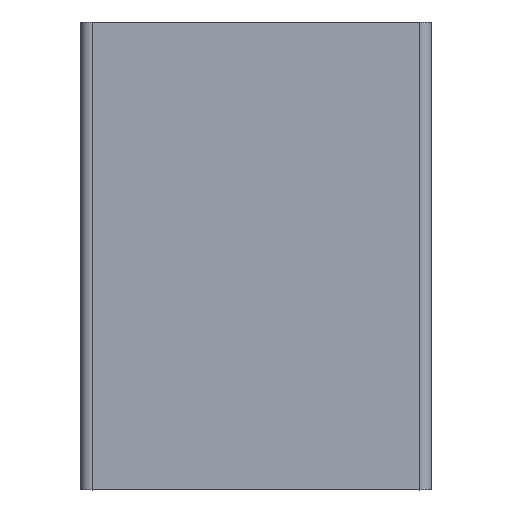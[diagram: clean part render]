
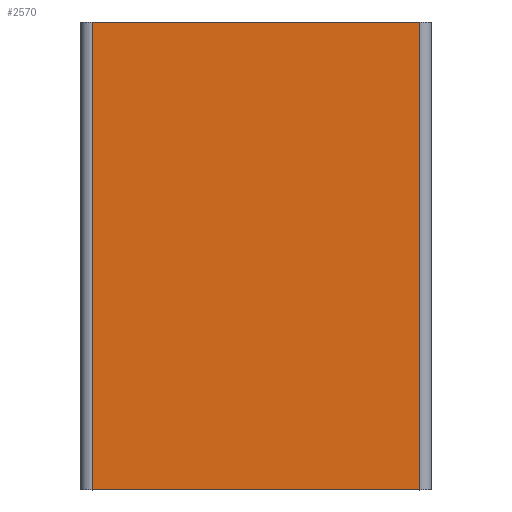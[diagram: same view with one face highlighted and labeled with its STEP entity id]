
A CAD part, top view. The second image highlights one B-rep face of the part: STEP entity #2570.
In plain terms, the highlighted planar face has unit normal (0, 0, 1) as drawn and (0, 1, 0) by its records, which use the part's own axes.
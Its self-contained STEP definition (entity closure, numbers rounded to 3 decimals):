
#183=PLANE('',#2973);
#290=FACE_OUTER_BOUND('',#469,.T.);
#469=EDGE_LOOP('',(#1961,#1962,#1963,#1964));
#651=LINE('',#4450,#831);
#652=LINE('',#4456,#832);
#653=LINE('',#4459,#833);
#654=LINE('',#4462,#834);
#831=VECTOR('',#3541,10.);
#832=VECTOR('',#3550,10.);
#833=VECTOR('',#3553,10.);
#834=VECTOR('',#3558,10.);
#1205=VERTEX_POINT('',#4448);
#1206=VERTEX_POINT('',#4449);
#1207=VERTEX_POINT('',#4454);
#1208=VERTEX_POINT('',#4458);
#1469=EDGE_CURVE('',#1205,#1206,#651,.T.);
#1473=EDGE_CURVE('',#1205,#1207,#652,.T.);
#1474=EDGE_CURVE('',#1207,#1208,#653,.T.);
#1476=EDGE_CURVE('',#1208,#1206,#654,.T.);
#1961=ORIENTED_EDGE('',*,*,#1476,.F.);
#1962=ORIENTED_EDGE('',*,*,#1474,.F.);
#1963=ORIENTED_EDGE('',*,*,#1473,.F.);
#1964=ORIENTED_EDGE('',*,*,#1469,.T.);
#2570=ADVANCED_FACE('',(#290),#183,.T.);
#2973=AXIS2_PLACEMENT_3D('',#4461,#3556,#3557);
#3541=DIRECTION('',(0.,0.,-1.));
#3550=DIRECTION('',(-1.,0.,0.));
#3553=DIRECTION('',(0.,0.,-1.));
#3556=DIRECTION('center_axis',(0.,1.,0.));
#3557=DIRECTION('ref_axis',(-1.,0.,0.));
#3558=DIRECTION('',(1.,0.,0.));
#4448=CARTESIAN_POINT('',(420.42,167.75,300.));
#4449=CARTESIAN_POINT('',(420.42,167.75,-300.));
#4450=CARTESIAN_POINT('',(420.42,167.75,300.));
#4454=CARTESIAN_POINT('',(0.,167.75,300.));
#4456=CARTESIAN_POINT('',(420.42,167.75,300.));
#4458=CARTESIAN_POINT('',(0.,167.75,-300.));
#4459=CARTESIAN_POINT('',(0.,167.75,300.));
#4461=CARTESIAN_POINT('Origin',(210.21,167.75,-300.));
#4462=CARTESIAN_POINT('',(0.,167.75,-300.));
